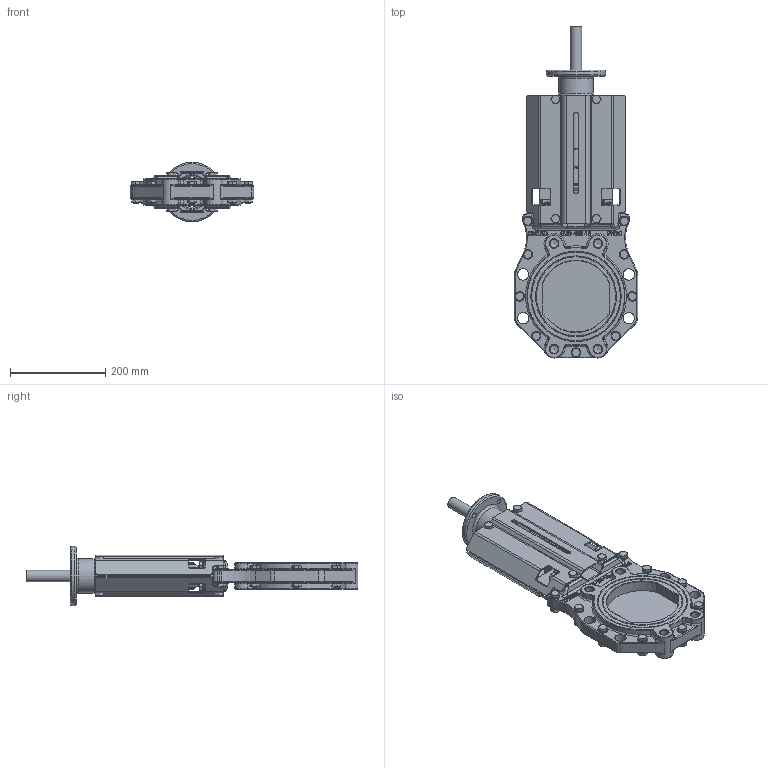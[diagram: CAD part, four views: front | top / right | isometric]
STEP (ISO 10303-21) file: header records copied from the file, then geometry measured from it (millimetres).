
FILE_DESCRIPTION(/* description */ (''),/* implementation_level */ '2;1');
FILE_NAME(/* name */ 'Rising stem knife gate valve with top flange DN150-10.stp',/* time_stamp */ '2025-04-21T17:10:09+08:00',/* author */ (''),/* organization */ (''),/* preprocessor_version */ 'ST-DEVELOPER v15',/* originating_system */ 'SIEMENS PLM Software NX 10.0',/* authorisation */ '');
FILE_SCHEMA (('AP203_CONFIGURATION_CONTROLLED_3D_DESIGN_OF_MECHANICAL_PARTS_AND_ASSEMBLIES_MIM_LF { 1 0 10303 403 2 1 2}'));
Products named in the file (1): Admi256412D81nvi
Bounding box: 258.73 x 696.87 x 125 mm (x, y, z)
Volume: 3187523.2 mm3; surface area: 641584.2 mm2
Topology: 1 solids, 23 shells, 2155 faces, 5299 edges, 3290 vertices
Faces by surface type: plane 903, cylinder 532, cone 186, bspline 180, extrusion 167, torus 159, sphere 28
Full cylindrical faces by diameter (mm): 2 x4, 5.2 x1, 9.188 x13, 10 x22, 10.5 x24, 11 x8, 15.4 x17, 17.294 x8, 18 x2, 20 x28, 24 x5, 25 x1, 40 x1, 63 x1, 73 x2, 125 x1
Entity records: 66046 total; most frequent: CARTESIAN_POINT 18445, ORIENTED_EDGE 9890, DIRECTION 8896, EDGE_CURVE 4945, AXIS2_PLACEMENT_3D 3243, VERTEX_POINT 3205, EDGE_LOOP 2616, VECTOR 2410
